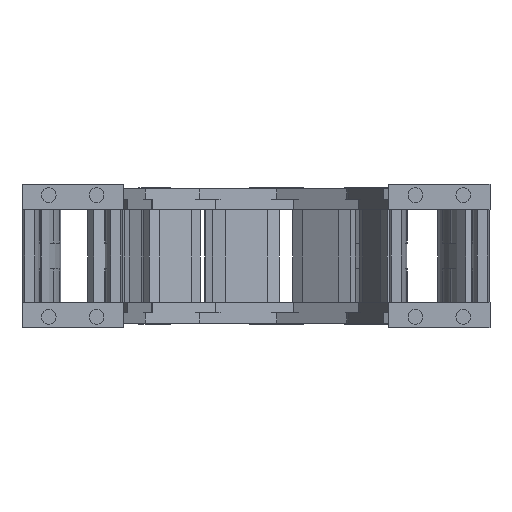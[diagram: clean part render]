
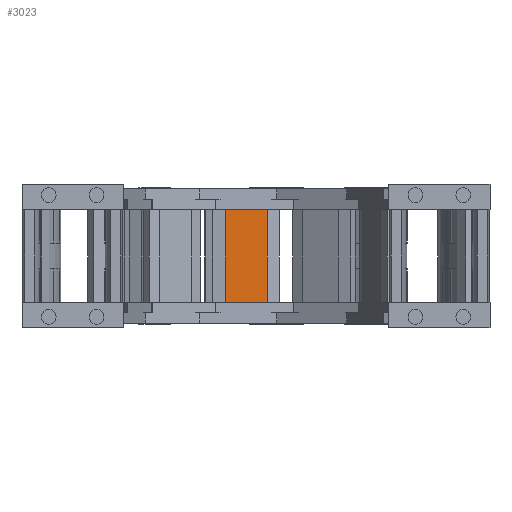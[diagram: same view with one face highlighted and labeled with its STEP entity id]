
A CAD part, left-side view. The second image highlights one B-rep face of the part: STEP entity #3023.
In plain terms, the highlighted planar face has unit normal (-0.996, -0.085, 0) as drawn and (0, 1, 0) by its records, which use the part's own axes.
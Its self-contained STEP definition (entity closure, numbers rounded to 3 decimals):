
#2766=DIRECTION('',(1.,0.,0.));
#2767=VECTOR('',#2766,23.);
#2768=CARTESIAN_POINT('',(-11.5,3.,37.6));
#2769=LINE('',#2768,#2767);
#2815=DIRECTION('',(0.,0.,-1.));
#2816=VECTOR('',#2815,50.1);
#2817=CARTESIAN_POINT('',(11.5,3.,37.6));
#2818=LINE('',#2817,#2816);
#2837=DIRECTION('',(-1.,0.,0.));
#2838=VECTOR('',#2837,23.);
#2839=CARTESIAN_POINT('',(11.5,3.,-12.5));
#2840=LINE('',#2839,#2838);
#2851=DIRECTION('',(0.,0.,-1.));
#2852=VECTOR('',#2851,50.1);
#2853=CARTESIAN_POINT('',(-11.5,3.,37.6));
#2854=LINE('',#2853,#2852);
#2878=CARTESIAN_POINT('',(11.5,3.,37.6));
#2879=VERTEX_POINT('',#2878);
#2882=CARTESIAN_POINT('',(-11.5,3.,37.6));
#2883=VERTEX_POINT('',#2882);
#2890=CARTESIAN_POINT('',(11.5,3.,-12.5));
#2891=VERTEX_POINT('',#2890);
#2892=CARTESIAN_POINT('',(-11.5,3.,-12.5));
#2893=VERTEX_POINT('',#2892);
#3011=CARTESIAN_POINT('',(15.5,3.,-12.4));
#3012=DIRECTION('',(0.,1.,0.));
#3013=DIRECTION('',(-1.,0.,0.));
#3014=AXIS2_PLACEMENT_3D('',#3011,#3012,#3013);
#3015=PLANE('',#3014);
#3017=ORIENTED_EDGE('',*,*,#3016,.T.);
#3018=ORIENTED_EDGE('',*,*,#2995,.F.);
#3019=ORIENTED_EDGE('',*,*,#2975,.F.);
#3020=ORIENTED_EDGE('',*,*,#2907,.F.);
#3021=EDGE_LOOP('',(#3017,#3018,#3019,#3020));
#3022=FACE_OUTER_BOUND('',#3021,.F.);
#3023=ADVANCED_FACE('',(#3022),#3015,.T.);
#2907=EDGE_CURVE('',#2883,#2879,#2769,.T.);
#2975=EDGE_CURVE('',#2879,#2891,#2818,.T.);
#2995=EDGE_CURVE('',#2891,#2893,#2840,.T.);
#3016=EDGE_CURVE('',#2883,#2893,#2854,.T.);
